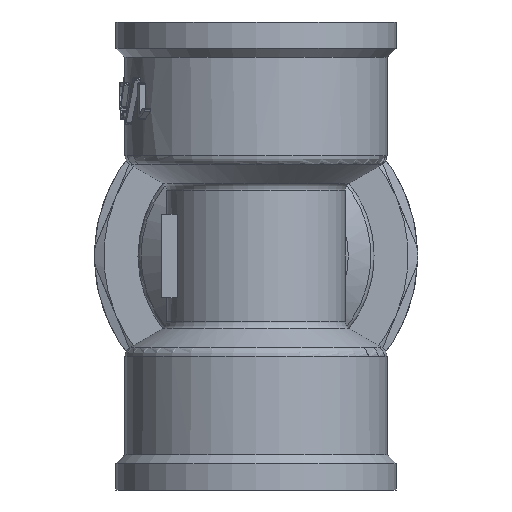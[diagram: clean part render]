
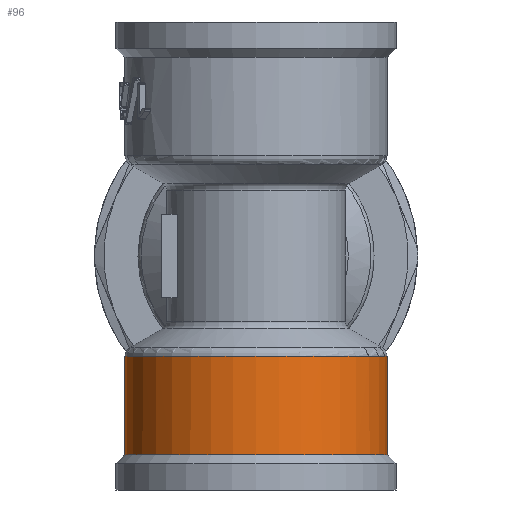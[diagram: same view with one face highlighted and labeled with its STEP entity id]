
A CAD part, front view. The second image highlights one B-rep face of the part: STEP entity #96.
In plain terms, the highlighted cylindrical face has radius 12.5 mm (diameter 25 mm), a full revolution.
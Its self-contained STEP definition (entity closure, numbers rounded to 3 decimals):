
#96=ADVANCED_FACE('',(#1021,#1023),#1025,.T.);
#1021=FACE_BOUND('',#1022,.T.);
#1022=EDGE_LOOP('',(#3989,#3990,#3991,#3992,#3993));
#1023=FACE_BOUND('',#1024,.T.);
#1024=EDGE_LOOP('',(#3994,#3995));
#1025=CYLINDRICAL_SURFACE('',#1026,12.5);
#1026=AXIS2_PLACEMENT_3D('',#1027,#1028,#1029);
#1027=CARTESIAN_POINT('',(0.,0.,-9.));
#1028=DIRECTION('',(0.,0.,-1.));
#1029=DIRECTION('',(0.,-1.,0.));
#3989=ORIENTED_EDGE('',*,*,#5797,.F.);
#3990=ORIENTED_EDGE('',*,*,#5798,.F.);
#3991=ORIENTED_EDGE('',*,*,#5799,.T.);
#3992=ORIENTED_EDGE('',*,*,#5602,.T.);
#3993=ORIENTED_EDGE('',*,*,#5795,.T.);
#3994=ORIENTED_EDGE('',*,*,#5800,.F.);
#3995=ORIENTED_EDGE('',*,*,#5801,.F.);
#5602=EDGE_CURVE('',#6449,#6447,#6450,.F.);
#5795=EDGE_CURVE('',#6447,#6823,#6826,.F.);
#5797=EDGE_CURVE('',#6828,#6823,#6829,.T.);
#5798=EDGE_CURVE('',#6830,#6828,#6831,.T.);
#5799=EDGE_CURVE('',#6830,#6449,#6832,.F.);
#5800=EDGE_CURVE('',#6833,#6834,#6835,.F.);
#5801=EDGE_CURVE('',#6834,#6833,#6836,.F.);
#6447=VERTEX_POINT('',#8575);
#6449=VERTEX_POINT('',#8603);
#6450=B_SPLINE_CURVE_WITH_KNOTS('',3,
(#8604,#8605,#8606,#8607,#8608,#8609,#8610,#8611,#8612,#8613),
.UNSPECIFIED.,.F.,.F.,
(4,1,1,1,1,1,1,4),
(0.,0.188,0.361,0.513,0.665,0.809,
0.919,1.),
.UNSPECIFIED.);
#6823=VERTEX_POINT('',#10608);
#6826=B_SPLINE_CURVE_WITH_KNOTS('',3,
(#10653,#10654,#10655,#10656,#10657,#10658,#10659,#10660,#10661,#10662,#10663),
.UNSPECIFIED.,.F.,.F.,
(4,1,1,1,1,1,1,1,4),
(0.,0.267,0.484,0.652,0.761,0.851,
0.926,0.973,1.),
.UNSPECIFIED.);
#6828=VERTEX_POINT('',#10684);
#6829=CIRCLE('',#10685,12.5);
#6830=VERTEX_POINT('',#10689);
#6831=CIRCLE('',#10690,12.5);
#6832=B_SPLINE_CURVE_WITH_KNOTS('',3,
(#10694,#10695,#10696,#10697,#10698,#10699,#10700,#10701,#10702,#10703,#10704,#10705,
#10706,#10707,#10708,#10709,#10710,#10711,#10712,#10713,#10714,#10715),
.UNSPECIFIED.,.F.,.F.,
(4,1,1,1,1,1,1,1,1,1,1,1,1,1,1,1,1,1,1,4),
(0.,0.068,0.129,0.183,0.236,0.307,
0.381,0.468,0.543,0.612,0.672,
0.722,0.766,0.797,0.825,0.851,
0.89,0.932,0.974,1.),
.UNSPECIFIED.);
#6833=VERTEX_POINT('',#10716);
#6834=VERTEX_POINT('',#10717);
#6835=CIRCLE('',#10718,12.5);
#6836=CIRCLE('',#10722,12.5);
#8575=CARTESIAN_POINT('',(1.44,12.417,-11.351));
#8603=CARTESIAN_POINT('',(-1.44,12.417,-11.351));
#8604=CARTESIAN_POINT('',(1.44,12.417,-11.351));
#8605=CARTESIAN_POINT('',(1.263,12.437,-11.396));
#8606=CARTESIAN_POINT('',(0.921,12.47,-11.469));
#8607=CARTESIAN_POINT('',(0.426,12.496,-11.525));
#8608=CARTESIAN_POINT('',(-0.037,12.503,-11.539));
#8609=CARTESIAN_POINT('',(-0.472,12.494,-11.52));
#8610=CARTESIAN_POINT('',(-0.864,12.472,-11.474));
#8611=CARTESIAN_POINT('',(-1.184,12.445,-11.414));
#8612=CARTESIAN_POINT('',(-1.364,12.426,-11.37));
#8613=CARTESIAN_POINT('',(-1.44,12.417,-11.351));
#10608=CARTESIAN_POINT('',(4.458,11.678,-9.577));
#10653=CARTESIAN_POINT('',(4.458,11.678,-9.577));
#10654=CARTESIAN_POINT('',(4.221,11.768,-9.771));
#10655=CARTESIAN_POINT('',(3.815,11.91,-10.172));
#10656=CARTESIAN_POINT('',(3.176,12.095,-10.599));
#10657=CARTESIAN_POINT('',(2.666,12.215,-10.885));
#10658=CARTESIAN_POINT('',(2.27,12.294,-11.068));
#10659=CARTESIAN_POINT('',(1.966,12.346,-11.187));
#10660=CARTESIAN_POINT('',(1.726,12.381,-11.27));
#10661=CARTESIAN_POINT('',(1.556,12.403,-11.317));
#10662=CARTESIAN_POINT('',(1.472,12.413,-11.345));
#10663=CARTESIAN_POINT('',(1.44,12.417,-11.351));
#10684=CARTESIAN_POINT('',(0.,-12.5,-9.577));
#10685=AXIS2_PLACEMENT_3D('',#10686,#10687,#10688);
#10686=CARTESIAN_POINT('',(0.,0.,-9.577));
#10687=DIRECTION('',(0.,0.,1.));
#10688=DIRECTION('',(0.,-1.,0.));
#10689=CARTESIAN_POINT('',(-4.458,11.678,-9.577));
#10690=AXIS2_PLACEMENT_3D('',#10691,#10692,#10693);
#10691=CARTESIAN_POINT('',(0.,0.,-9.577));
#10692=DIRECTION('',(0.,0.,1.));
#10693=DIRECTION('',(-0.357,0.934,0.));
#10694=CARTESIAN_POINT('',(-1.44,12.417,-11.351));
#10695=CARTESIAN_POINT('',(-1.52,12.408,-11.333));
#10696=CARTESIAN_POINT('',(-1.666,12.389,-11.286));
#10697=CARTESIAN_POINT('',(-1.874,12.359,-11.219));
#10698=CARTESIAN_POINT('',(-2.061,12.329,-11.15));
#10699=CARTESIAN_POINT('',(-2.257,12.295,-11.071));
#10700=CARTESIAN_POINT('',(-2.472,12.254,-10.975));
#10701=CARTESIAN_POINT('',(-2.719,12.202,-10.853));
#10702=CARTESIAN_POINT('',(-2.963,12.145,-10.719));
#10703=CARTESIAN_POINT('',(-3.197,12.085,-10.577));
#10704=CARTESIAN_POINT('',(-3.397,12.03,-10.445));
#10705=CARTESIAN_POINT('',(-3.569,11.98,-10.325));
#10706=CARTESIAN_POINT('',(-3.714,11.936,-10.218));
#10707=CARTESIAN_POINT('',(-3.829,11.899,-10.127));
#10708=CARTESIAN_POINT('',(-3.924,11.868,-10.05));
#10709=CARTESIAN_POINT('',(-4.001,11.842,-9.986));
#10710=CARTESIAN_POINT('',(-4.085,11.814,-9.916));
#10711=CARTESIAN_POINT('',(-4.181,11.78,-9.836));
#10712=CARTESIAN_POINT('',(-4.285,11.743,-9.739));
#10713=CARTESIAN_POINT('',(-4.377,11.709,-9.65));
#10714=CARTESIAN_POINT('',(-4.435,11.687,-9.597));
#10715=CARTESIAN_POINT('',(-4.458,11.678,-9.577));
#10716=CARTESIAN_POINT('',(0.,-12.5,-18.95));
#10717=CARTESIAN_POINT('',(0.,12.5,-18.95));
#10718=AXIS2_PLACEMENT_3D('',#10719,#10720,#10721);
#10719=CARTESIAN_POINT('',(0.,0.,-18.95));
#10720=DIRECTION('',(0.,0.,1.));
#10721=DIRECTION('',(0.,1.,0.));
#10722=AXIS2_PLACEMENT_3D('',#10723,#10724,#10725);
#10723=CARTESIAN_POINT('',(0.,0.,-18.95));
#10724=DIRECTION('',(0.,0.,1.));
#10725=DIRECTION('',(0.,-1.,0.));
